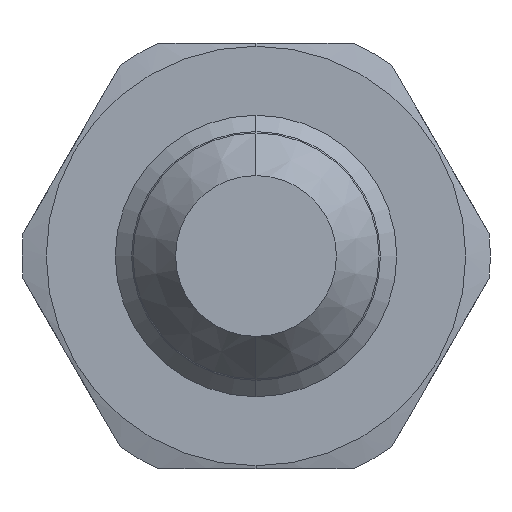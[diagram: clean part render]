
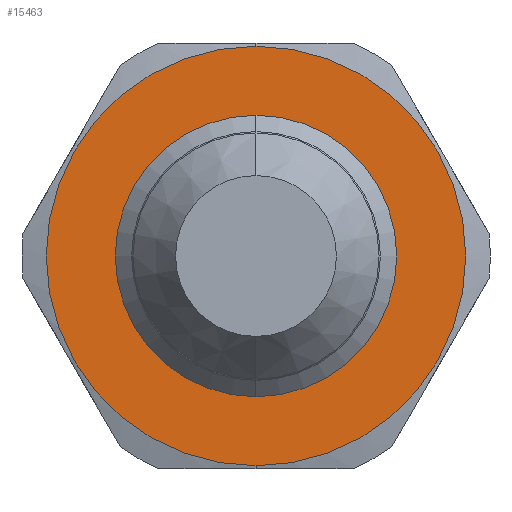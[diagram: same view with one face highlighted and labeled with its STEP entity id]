
A CAD part, left-side view. The second image highlights one B-rep face of the part: STEP entity #15463.
In plain terms, the highlighted planar face has unit normal (-1, 0, 0).
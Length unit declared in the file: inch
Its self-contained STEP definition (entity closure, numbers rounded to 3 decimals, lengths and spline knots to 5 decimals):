
#18 = DIRECTION ( 'NONE',  ( 0., 0., -1. ) ) ;
#138 = CARTESIAN_POINT ( 'NONE',  ( 0.657, 0., 0. ) ) ;
#280 = CARTESIAN_POINT ( 'NONE',  ( 0.657, 0.35275, 0. ) ) ;
#1489 = VERTEX_POINT ( 'NONE', #3605 ) ;
#2567 = CARTESIAN_POINT ( 'NONE',  ( 0.657, 0., 0.5555 ) ) ;
#2757 = DIRECTION ( 'NONE',  ( 1., 0., 0. ) ) ;
#3246 = EDGE_LOOP ( 'NONE', ( #10409, #15793 ) ) ;
#3605 = CARTESIAN_POINT ( 'NONE',  ( 0.657, 0., -0.35275 ) ) ;
#3660 = EDGE_LOOP ( 'NONE', ( #8284, #16027 ) ) ;
#4127 = DIRECTION ( 'NONE',  ( -1., 0., 0. ) ) ;
#4400 = FACE_OUTER_BOUND ( 'NONE', #3246, .T. ) ;
#5347 = DIRECTION ( 'NONE',  ( 0., 0., 1. ) ) ;
#5455 = DIRECTION ( 'NONE',  ( 0., 0., -1. ) ) ;
#5616 = DIRECTION ( 'NONE',  ( 1., 0., 0. ) ) ;
#5881 = CARTESIAN_POINT ( 'NONE',  ( 0.657, 0., -0.5555 ) ) ;
#6362 = VERTEX_POINT ( 'NONE', #5881 ) ;
#6564 = CIRCLE ( 'NONE', #12059, 0.35275 ) ;
#6712 = CARTESIAN_POINT ( 'NONE',  ( 0.657, 0., 0. ) ) ;
#8023 = DIRECTION ( 'NONE',  ( -1., 0., 0. ) ) ;
#8265 = CARTESIAN_POINT ( 'NONE',  ( 0.657, 0., 0. ) ) ;
#8284 = ORIENTED_EDGE ( 'NONE', *, *, #14345, .T. ) ;
#9012 = EDGE_CURVE ( 'NONE', #6362, #16736, #12873, .T. ) ;
#10409 = ORIENTED_EDGE ( 'NONE', *, *, #9012, .T. ) ;
#10419 = EDGE_CURVE ( 'NONE', #13145, #1489, #6564, .T. ) ;
#10781 = DIRECTION ( 'NONE',  ( 0., 0., 1. ) ) ;
#11130 = AXIS2_PLACEMENT_3D ( 'NONE', #138, #5616, #5455 ) ;
#11679 = AXIS2_PLACEMENT_3D ( 'NONE', #14462, #8023, #5347 ) ;
#11975 = DIRECTION ( 'NONE',  ( -1., 0., 0. ) ) ;
#12059 = AXIS2_PLACEMENT_3D ( 'NONE', #8265, #2757, #18 ) ;
#12216 = CIRCLE ( 'NONE', #11130, 0.35275 ) ;
#12528 = CARTESIAN_POINT ( 'NONE',  ( 0.657, 0., 0.35275 ) ) ;
#12873 = CIRCLE ( 'NONE', #15601, 0.5555 ) ;
#13145 = VERTEX_POINT ( 'NONE', #12528 ) ;
#13429 = PLANE ( 'NONE',  #14423 ) ;
#14345 = EDGE_CURVE ( 'NONE', #1489, #13145, #12216, .T. ) ;
#14423 = AXIS2_PLACEMENT_3D ( 'NONE', #280, #11975, #10781 ) ;
#14462 = CARTESIAN_POINT ( 'NONE',  ( 0.657, 0., 0. ) ) ;
#14615 = DIRECTION ( 'NONE',  ( 0., 0., 1. ) ) ;
#14714 = FACE_BOUND ( 'NONE', #3660, .T. ) ;
#14803 = EDGE_CURVE ( 'NONE', #16736, #6362, #15498, .T. ) ;
#15463 = ADVANCED_FACE ( 'NONE', ( #14714, #4400 ), #13429, .T. ) ;
#15498 = CIRCLE ( 'NONE', #11679, 0.5555 ) ;
#15601 = AXIS2_PLACEMENT_3D ( 'NONE', #6712, #4127, #14615 ) ;
#15793 = ORIENTED_EDGE ( 'NONE', *, *, #14803, .T. ) ;
#16027 = ORIENTED_EDGE ( 'NONE', *, *, #10419, .T. ) ;
#16736 = VERTEX_POINT ( 'NONE', #2567 ) ;
